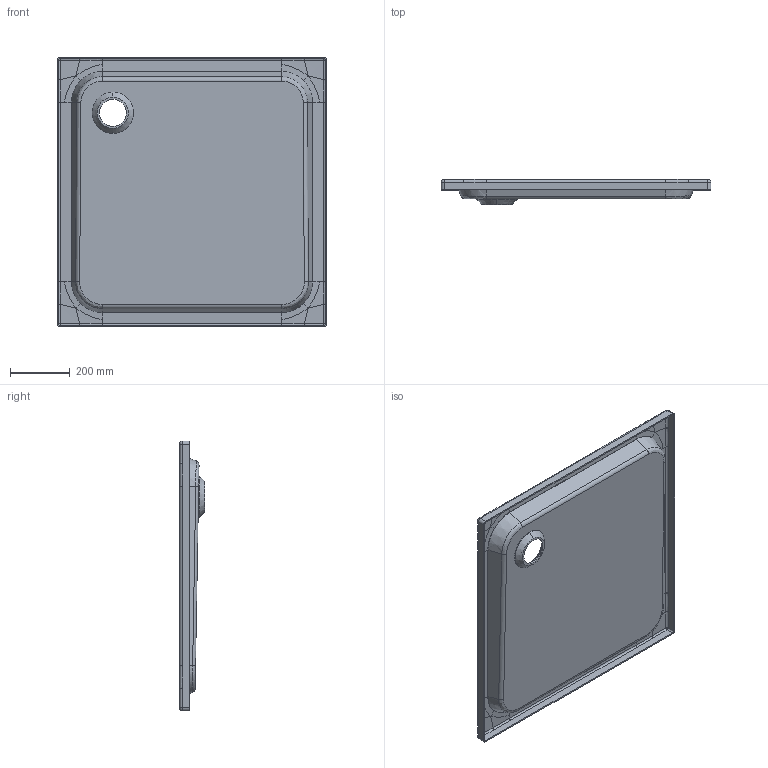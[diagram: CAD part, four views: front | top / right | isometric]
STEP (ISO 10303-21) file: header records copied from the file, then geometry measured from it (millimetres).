
FILE_DESCRIPTION((''),'2;1');
FILE_NAME('V3P0604-262','2024-05-24T12:45:46',('hegemanc'),('Villeroy & Boch Wellness bv'),'CREO PARAMETRIC BY PTC INC, 2022414','CREO PARAMETRIC BY PTC INC, 2022414','');
FILE_SCHEMA(('AP242_MANAGED_MODEL_BASED_3D_ENGINEERING_MIM_LF { 1 0 10303 442 1 1 4 }'));
Length unit declared in the file: millimetre
Products named in the file (1): V3P0604-262
Bounding box: 900 x 83.6 x 900 mm (x, y, z)
Volume: 4617091.1 mm3; surface area: 2025106 mm2
Topology: 1 solids, 1 shells, 186 faces, 448 edges, 301 vertices
Faces by surface type: bspline 98, cylinder 37, plane 29, cone 12, sphere 8, torus 2
Entity records: 17065 total; most frequent: CARTESIAN_POINT 10243, COLOUR_RGB 1452, ORIENTED_EDGE 822, DIRECTION 593, PRESENTATION_STYLE_ASSIGNMENT 455, STYLED_ITEM 453, CURVE_STYLE 449, EDGE_CURVE 411
